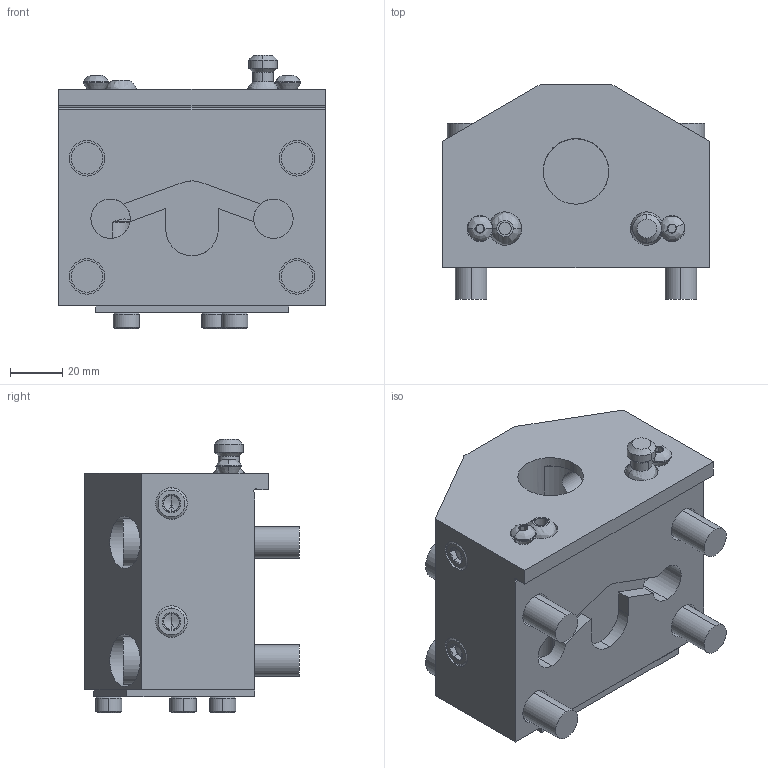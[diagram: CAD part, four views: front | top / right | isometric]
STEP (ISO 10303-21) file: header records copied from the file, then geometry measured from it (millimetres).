
FILE_DESCRIPTION (( 'STEP AP203' ), '1' );
FILE_NAME ('04-0752, BOT20MID-25.STEP', '2022-07-18T22:11:16', ( '' ), ( '' ), 'SwSTEP 2.0', 'SolidWorks 2021', '' );
FILE_SCHEMA (( 'CONFIG_CONTROL_DESIGN' ));
Length unit declared in the file: inch
Products named in the file (1): 04-0752, BOT20MID-25
Bounding box: 101.6 x 81.67 x 104.08 mm (x, y, z)
Surface area: 84156.3 mm2 (no closed solid volume)
Topology: 0 solids, 26 shells, 384 faces, 1045 edges, 683 vertices
Faces by surface type: plane 183, cone 98, cylinder 86, bspline 17
Entity records: 19381 total; most frequent: CARTESIAN_POINT 10148, ORIENTED_EDGE 1901, DIRECTION 1745, EDGE_CURVE 1029, VERTEX_POINT 683, AXIS2_PLACEMENT_3D 645, LINE 455, VECTOR 455
